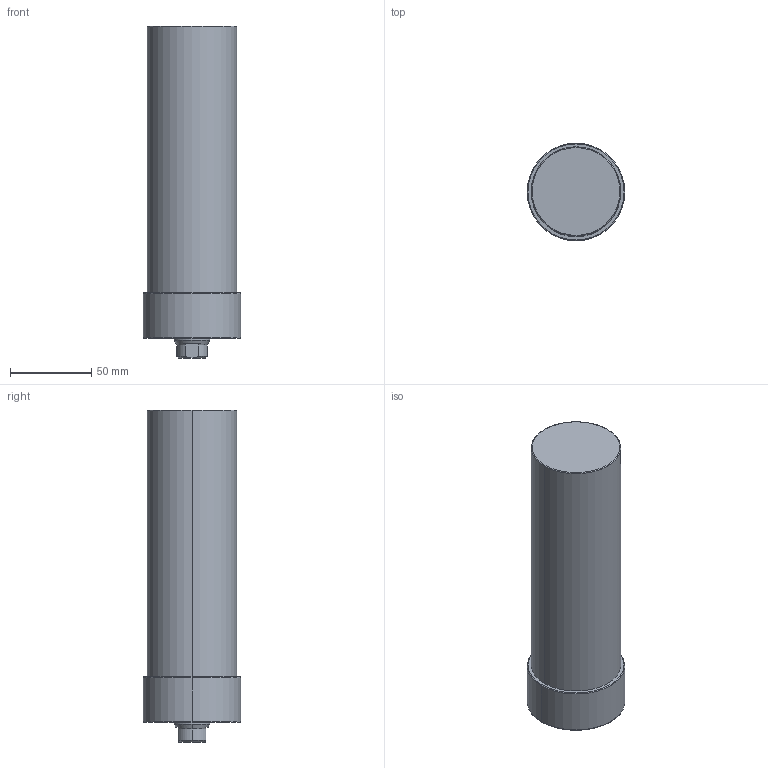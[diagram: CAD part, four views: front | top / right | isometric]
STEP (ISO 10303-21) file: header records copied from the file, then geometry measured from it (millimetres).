
FILE_DESCRIPTION (( 'STEP AP203' ), '1' );
FILE_NAME ('CLLU-055GA-135.STEP', '2020-01-06T07:10:20', ( '' ), ( '' ), 'SwSTEP 2.0', 'SolidWorks 2015', '' );
FILE_SCHEMA (( 'CONFIG_CONTROL_DESIGN' ));
Length unit declared in the file: millimetre
Products named in the file (1): CLLU-055GA-135
Bounding box: 60 x 60 x 204 mm (x, y, z)
Volume: 469137 mm3; surface area: 41659.8 mm2
Topology: 1 solids, 1 shells, 64 faces, 143 edges, 80 vertices
Faces by surface type: cone 25, cylinder 23, plane 10, torus 6
Entity records: 1805 total; most frequent: DIRECTION 330, CARTESIAN_POINT 318, ORIENTED_EDGE 266, AXIS2_PLACEMENT_3D 140, EDGE_CURVE 133, VERTEX_POINT 80, CIRCLE 75, EDGE_LOOP 73
